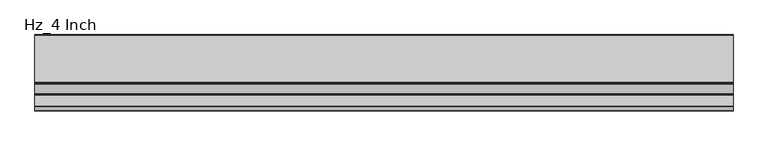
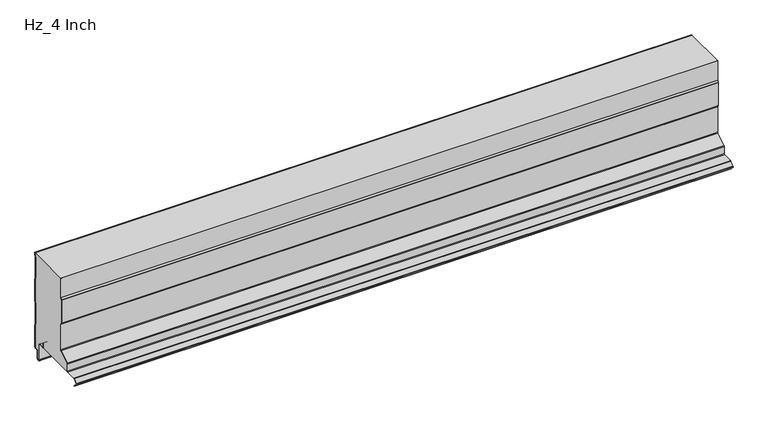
"""IFC4 building model written with IfcOpenShell, lengths in millimetres: plate geometry, KIP_R19_CP_KingSeam_Hz_Roof Panel : Hz_4 Inch."""

from ifc_helpers import new_model, si_unit, point, frame, frame_2d, origin, place, context, project, spatial, polyline, circle_curve, trimmed, segment, composite_curve, outline, extrude, source, transform, mapped, element, save


def hz_4_inch_9b4ac41a(model_context):
    return source(origin(), model_context, "Body", "SweptSolid", [
        extrude(outline(composite_curve([segment(polyline([(-32.0, 1.9842002), (-32.0, 9.4842002), (-31.2, 9.4842002), (-31.2, 1.9842002)]), True, "CONTINUOUS"), segment(trimmed(circle_curve(frame_2d((-29.7, 1.9842002)), 1.5), [point((-31.2, 1.9842002))], [point((-29.7, 0.4842002))], True, "CARTESIAN"), True, "CONTINUOUS"), segment(polyline([(-29.7, 0.4842002), (-18.5, 0.4842002)]), True, "CONTINUOUS"), segment(trimmed(circle_curve(frame_2d((-18.5, -1.5157998)), 2.0), [point((-18.5, 0.4842002))], [point((-16.5, -1.5157998))], False, "CARTESIAN"), True, "CONTINUOUS"), segment(polyline([(-16.5, -1.5157998), (-16.5, -37.0157998)]), True, "CONTINUOUS"), segment(trimmed(circle_curve(frame_2d((-14.0, -37.0157998)), 2.5), [point((-16.5, -37.0157998))], [point((-14.0, -39.5157998))], True, "CARTESIAN"), True, "CONTINUOUS"), segment(polyline([(-14.0, -39.5157998), (-12.0, -39.5157998)]), True, "CONTINUOUS"), segment(trimmed(circle_curve(frame_2d((-12.0, -37.0157998)), 2.5), [point((-12.0, -39.5157998))], [point((-9.5, -37.0157998))], True, "CARTESIAN"), True, "CONTINUOUS"), segment(polyline([(-9.5, -37.0157998), (-9.5, -21.3)]), True, "CONTINUOUS"), segment(trimmed(circle_curve(frame_2d((-6.5, -21.3)), 3.0), [point((-9.5, -21.3))], [point((-6.5, -18.3))], False, "CARTESIAN"), True, "CONTINUOUS"), segment(polyline([(-6.5, -18.3), (-3.0, -18.3)]), True, "CONTINUOUS"), segment(trimmed(circle_curve(frame_2d((-2.8161925, -16.2437506)), 2.0644483), [point((-3.0, -18.3))], [point((-0.8, -15.8))], True, "CARTESIAN"), True, "CONTINUOUS"), segment(polyline([(-0.8, -15.8), (-0.8, 33.9573226)]), True, "CONTINUOUS"), segment(trimmed(circle_curve(frame_2d((-3.2, 33.9573226)), 2.4), [point((-0.8, 33.9573226))], [point((-0.9968123, 34.9091439))], True, "CARTESIAN"), True, "CONTINUOUS"), segment(polyline([(-0.9968123, 34.9091439), (-2.0293831, 37.2992431)]), True, "CONTINUOUS"), segment(trimmed(circle_curve(frame_2d((1.0, 38.6079974)), 3.3), [point((-2.0293831, 37.2992431))], [point((-2.3, 38.6079974))], False, "CARTESIAN"), True, "CONTINUOUS"), segment(polyline([(-2.3, 38.6079974), (-2.3, 86.9920026)]), True, "CONTINUOUS"), segment(trimmed(circle_curve(frame_2d((1.0, 86.9920026)), 3.3), [point((-2.3, 86.9920026))], [point((-2.0293831, 88.3007569))], False, "CARTESIAN"), True, "CONTINUOUS"), segment(polyline([(-2.0293831, 88.3007569), (-0.9968123, 90.6908561)]), True, "CONTINUOUS"), segment(trimmed(circle_curve(frame_2d((-3.2, 91.6426774)), 2.4), [point((-0.9968123, 90.6908561))], [point((-0.8, 91.6426774))], True, "CARTESIAN"), True, "CONTINUOUS"), segment(polyline([(-0.8, 91.6426774), (-0.8, 140.5573226)]), True, "CONTINUOUS"), segment(trimmed(circle_curve(frame_2d((-3.2, 140.5573226)), 2.4), [point((-0.8, 140.5573226))], [point((-0.9968123, 141.5091439))], True, "CARTESIAN"), True, "CONTINUOUS"), segment(polyline([(-0.9968123, 141.5091439), (-2.0293831, 143.8992431)]), True, "CONTINUOUS"), segment(trimmed(circle_curve(frame_2d((1.0, 145.2079974)), 3.3), [point((-2.0293831, 143.8992431))], [point((-2.3, 145.2079974))], False, "CARTESIAN"), True, "CONTINUOUS"), segment(polyline([(-2.3, 145.2079974), (-2.3, 193.5920026)]), True, "CONTINUOUS"), segment(trimmed(circle_curve(frame_2d((1.0, 193.5920026)), 3.3), [point((-2.3, 193.5920026))], [point((-2.0293831, 194.9007569))], False, "CARTESIAN"), True, "CONTINUOUS"), segment(polyline([(-2.0293831, 194.9007569), (-0.9968123, 197.2908561)]), True, "CONTINUOUS"), segment(trimmed(circle_curve(frame_2d((-3.2, 198.2426774)), 2.4), [point((-0.9968123, 197.2908561))], [point((-0.8, 198.2426774))], True, "CARTESIAN"), True, "CONTINUOUS"), segment(polyline([(-0.8, 198.2426774), (-0.8, 203.2), (0.0, 203.2), (0.0, 198.2426774)]), True, "CONTINUOUS"), segment(trimmed(circle_curve(frame_2d((-3.2, 198.2426774)), 3.2), [point((0.0, 198.2426774))], [point((-0.2624164, 196.9735823))], False, "CARTESIAN"), True, "CONTINUOUS"), segment(polyline([(-0.2624164, 196.9735823), (-1.2949872, 194.5834831)]), True, "CONTINUOUS"), segment(trimmed(circle_curve(frame_2d((1.0, 193.5920026)), 2.5), [point((-1.2949872, 194.5834831))], [point((-1.5, 193.5920026))], True, "CARTESIAN"), True, "CONTINUOUS"), segment(polyline([(-1.5, 193.5920026), (-1.5, 145.2079974)]), True, "CONTINUOUS"), segment(trimmed(circle_curve(frame_2d((1.0, 145.2079974)), 2.5), [point((-1.5, 145.2079974))], [point((-1.2949872, 144.2165169))], True, "CARTESIAN"), True, "CONTINUOUS"), segment(polyline([(-1.2949872, 144.2165169), (-0.2624164, 141.8264177)]), True, "CONTINUOUS"), segment(trimmed(circle_curve(frame_2d((-3.2, 140.5573226)), 3.2), [point((-0.2624164, 141.8264177))], [point((0.0, 140.5573226))], False, "CARTESIAN"), True, "CONTINUOUS"), segment(polyline([(0.0, 140.5573226), (0.0, 91.6426774)]), True, "CONTINUOUS"), segment(trimmed(circle_curve(frame_2d((-3.2, 91.6426774)), 3.2), [point((0.0, 91.6426774))], [point((-0.2624164, 90.3735823))], False, "CARTESIAN"), True, "CONTINUOUS"), segment(polyline([(-0.2624164, 90.3735823), (-1.2949872, 87.9834831)]), True, "CONTINUOUS"), segment(trimmed(circle_curve(frame_2d((1.0, 86.9920026)), 2.5), [point((-1.2949872, 87.9834831))], [point((-1.5, 86.9920026))], True, "CARTESIAN"), True, "CONTINUOUS"), segment(polyline([(-1.5, 86.9920026), (-1.5, 38.6079974)]), True, "CONTINUOUS"), segment(trimmed(circle_curve(frame_2d((1.0, 38.6079974)), 2.5), [point((-1.5, 38.6079974))], [point((-1.2949872, 37.6165169))], True, "CARTESIAN"), True, "CONTINUOUS"), segment(polyline([(-1.2949872, 37.6165169), (-0.2624164, 35.2264177)]), True, "CONTINUOUS"), segment(trimmed(circle_curve(frame_2d((-3.2, 33.9573226)), 3.2), [point((-0.2624164, 35.2264177))], [point((0.0, 33.9573226))], False, "CARTESIAN"), True, "CONTINUOUS"), segment(polyline([(0.0, 33.9573226), (0.0, -15.8)]), True, "CONTINUOUS"), segment(trimmed(circle_curve(frame_2d((-3.0, -15.8)), 3.0), [point((0.0, -15.8))], [point((-3.0, -18.8))], False, "CARTESIAN"), True, "CONTINUOUS"), segment(polyline([(-3.0, -18.8), (-6.5, -18.8)]), True, "CONTINUOUS"), segment(trimmed(circle_curve(frame_2d((-6.5, -21.3)), 2.5), [point((-6.5, -18.8))], [point((-9.0, -21.3))], True, "CARTESIAN"), True, "CONTINUOUS"), segment(polyline([(-9.0, -21.3), (-9.0, -37.0157998)]), True, "CONTINUOUS"), segment(trimmed(circle_curve(frame_2d((-12.0, -37.0157998)), 3.0), [point((-9.0, -37.0157998))], [point((-12.0, -40.0157998))], False, "CARTESIAN"), True, "CONTINUOUS"), segment(polyline([(-12.0, -40.0157998), (-14.0, -40.0157998)]), True, "CONTINUOUS"), segment(trimmed(circle_curve(frame_2d((-14.0, -37.0157998)), 3.0), [point((-14.0, -40.0157998))], [point((-17.0, -37.0157998))], False, "CARTESIAN"), True, "CONTINUOUS"), segment(polyline([(-17.0, -37.0157998), (-17.0, -1.5157998)]), True, "CONTINUOUS"), segment(trimmed(circle_curve(frame_2d((-18.5, -1.5157998)), 1.5), [point((-17.0, -1.5157998))], [point((-18.5, -0.0157998))], True, "CARTESIAN"), True, "CONTINUOUS"), segment(polyline([(-18.5, -0.0157998), (-30.0, -0.0157998)]), True, "CONTINUOUS"), segment(trimmed(circle_curve(frame_2d((-30.0, 1.9842002)), 2.0), [point((-30.0, -0.0157998))], [point((-32.0, 1.9842002))], False, "CARTESIAN"), True, "CONTINUOUS")], self_intersect=False)), frame((-723.9042608, 0.0, 0.0), z_axis=(1.0, 0.0, 0.0), x_axis=(0.0, 1.0, 0.0)), (0.0, 0.0, 1.0), 1447.8085217),
        extrude(outline(composite_curve([segment(polyline([(-101.8158084, 154.7942706), (-99.315881, 158.2539642), (-99.315881, 203.2), (-98.8158803, 203.2), (-98.8158803, 158.2539652), (-101.3158083, 154.7942705)]), True, "CONTINUOUS"), segment(trimmed(circle_curve(frame_2d((-100.0999997, 153.9157438)), 1.4999999), [point((-101.3158083, 154.7942705))], [point((-101.5999996, 153.9157438))], True, "CARTESIAN"), True, "CONTINUOUS"), segment(polyline([(-101.5999996, 153.9157438), (-101.5999996, 100.1657439)]), True, "CONTINUOUS"), segment(trimmed(circle_curve(frame_2d((-100.0999999, 100.1657439)), 1.4999998), [point((-101.5999996, 100.1657439))], [point((-101.3158084, 99.2872174))], True, "CARTESIAN"), True, "CONTINUOUS"), segment(polyline([(-101.3158084, 99.2872174), (-98.8158803, 95.8275223), (-98.8158803, 36.653595)]), True, "CONTINUOUS"), segment(trimmed(circle_curve(frame_2d((-101.3158801, 36.653595)), 2.4999998), [point((-98.8158803, 36.653595))], [point((-99.9365748, 34.5685253))], False, "CARTESIAN"), True, "CONTINUOUS"), segment(polyline([(-99.9365748, 34.5685253), (-122.919325, 19.3650868)]), True, "CONTINUOUS"), segment(trimmed(circle_curve(frame_2d((-121.8158806, 17.6970309)), 2.0), [point((-122.919325, 19.3650868))], [point((-123.8158806, 17.6970309))], True, "CARTESIAN"), True, "CONTINUOUS"), segment(polyline([(-123.8158806, 17.6970309), (-123.8158806, 2.1407443)]), True, "CONTINUOUS"), segment(trimmed(circle_curve(frame_2d((-125.9158807, 2.1407443)), 2.1000001), [point((-123.8158806, 2.1407443))], [point((-125.9158807, 0.0407443))], False, "CARTESIAN"), True, "CONTINUOUS"), segment(polyline([(-125.9158807, 0.0407443), (-148.8505141, 0.0407443)]), True, "CONTINUOUS"), segment(trimmed(circle_curve(frame_2d((-148.8505141, -1.4592557)), 1.5), [point((-148.8505141, 0.0407443))], [point((-149.9111742, -0.3985956))], True, "CARTESIAN"), True, "CONTINUOUS"), segment(polyline([(-149.9111742, -0.3985956), (-157.4309954, -7.9184168)]), True, "CONTINUOUS"), segment(trimmed(circle_curve(frame_2d((-156.4012712, -8.4443275)), 1.15625), [point((-157.4309954, -7.9184168))], [point((-157.2188634, -9.2619197))], True, "CARTESIAN"), True, "CONTINUOUS"), segment(polyline([(-157.2188634, -9.2619197), (-149.8649529, -16.6158302), (-150.4306383, -17.1815156), (-157.7845488, -9.8276051)]), True, "CONTINUOUS"), segment(trimmed(circle_curve(frame_2d((-156.653178, -8.6962342)), 1.6), [point((-157.7845488, -9.8276051))], [point((-157.7845488, -7.5648634))], False, "CARTESIAN"), True, "CONTINUOUS"), segment(polyline([(-157.7845488, -7.5648634), (-150.2647276, -0.0450422)]), True, "CONTINUOUS"), segment(trimmed(circle_curve(frame_2d((-148.8505141, -1.4592557)), 2.0), [point((-150.2647276, -0.0450422))], [point((-148.8505141, 0.5407443))], False, "CARTESIAN"), True, "CONTINUOUS"), segment(polyline([(-148.8505141, 0.5407443), (-125.9158807, 0.5407443)]), True, "CONTINUOUS"), segment(trimmed(circle_curve(frame_2d((-125.9158807, 2.1407444)), 1.6000001), [point((-125.9158807, 0.5407443))], [point((-124.3158806, 2.1407444))], True, "CARTESIAN"), True, "CONTINUOUS"), segment(polyline([(-124.3158806, 2.1407444), (-124.3158806, 17.6970309)]), True, "CONTINUOUS"), segment(trimmed(circle_curve(frame_2d((-121.8158806, 17.6970309)), 2.4999999), [point((-124.3158806, 17.6970309))], [point((-123.1951861, 19.7821007))], False, "CARTESIAN"), True, "CONTINUOUS"), segment(polyline([(-123.1951861, 19.7821007), (-100.212436, 34.9855395)]), True, "CONTINUOUS"), segment(trimmed(circle_curve(frame_2d((-101.3158801, 36.653595)), 1.9999995), [point((-100.212436, 34.9855395))], [point((-99.3158806, 36.653595))], True, "CARTESIAN"), True, "CONTINUOUS"), segment(polyline([(-99.3158806, 36.653595), (-99.3158806, 95.8275223), (-101.8158088, 99.2872172)]), True, "CONTINUOUS"), segment(trimmed(circle_curve(frame_2d((-100.6000001, 100.1657439)), 1.5), [point((-101.8158088, 99.2872172))], [point((-102.0999997, 100.1667153))], False, "CARTESIAN"), True, "CONTINUOUS"), segment(polyline([(-102.0999997, 100.1667153), (-102.0999997, 153.9157439)]), True, "CONTINUOUS"), segment(trimmed(circle_curve(frame_2d((-100.5999998, 153.9157439)), 1.5), [point((-102.0999997, 153.9157439))], [point((-101.8158084, 154.7942706))], False, "CARTESIAN"), True, "CONTINUOUS")], self_intersect=False)), frame((-723.9042608, 0.0, 0.0), z_axis=(1.0, 0.0, 0.0), x_axis=(0.0, 1.0, 0.0)), (0.0, 0.0, 1.0), 1447.8085217),
        extrude(outline(composite_curve([segment(polyline([(-98.8158807, 158.2132216), (-98.8158807, 203.2), (-0.7999994, 203.2), (-0.7999994, 198.2584774)]), True, "CONTINUOUS"), segment(trimmed(circle_curve(frame_2d((-3.1999994, 198.2584774)), 2.4), [point((-0.7999994, 198.2584774))], [point((-0.9968117, 197.306656))], False, "CARTESIAN"), True, "CONTINUOUS"), segment(polyline([(-0.9968117, 197.306656), (-2.0293826, 194.9165568)]), True, "CONTINUOUS"), segment(trimmed(circle_curve(frame_2d((1.0000006, 193.6078025)), 3.3), [point((-2.0293826, 194.9165568))], [point((-2.2999994, 193.6078025))], True, "CARTESIAN"), True, "CONTINUOUS"), segment(polyline([(-2.2999994, 193.6078025), (-2.2999994, 145.2237974)]), True, "CONTINUOUS"), segment(trimmed(circle_curve(frame_2d((1.0000006, 145.2237974)), 3.3), [point((-2.2999994, 145.2237974))], [point((-2.0293826, 143.915043))], True, "CARTESIAN"), True, "CONTINUOUS"), segment(polyline([(-2.0293826, 143.915043), (-0.9968117, 141.5249438)]), True, "CONTINUOUS"), segment(trimmed(circle_curve(frame_2d((-3.1999994, 140.5731225)), 2.4), [point((-0.9968117, 141.5249438))], [point((-0.7999994, 140.5731225))], False, "CARTESIAN"), True, "CONTINUOUS"), segment(polyline([(-0.7999994, 140.5731225), (-0.7999994, 91.6584774)]), True, "CONTINUOUS"), segment(trimmed(circle_curve(frame_2d((-3.1999994, 91.6584774)), 2.4), [point((-0.7999994, 91.6584774))], [point((-0.9968117, 90.706656))], False, "CARTESIAN"), True, "CONTINUOUS"), segment(polyline([(-0.9968117, 90.706656), (-2.0293826, 88.3165568)]), True, "CONTINUOUS"), segment(trimmed(circle_curve(frame_2d((1.0000006, 87.0078025)), 3.3), [point((-2.0293826, 88.3165568))], [point((-2.2999994, 87.0078025))], True, "CARTESIAN"), True, "CONTINUOUS"), segment(polyline([(-2.2999994, 87.0078025), (-2.2999994, 38.6237974)]), True, "CONTINUOUS"), segment(trimmed(circle_curve(frame_2d((1.0000006, 38.6237974)), 3.3), [point((-2.2999994, 38.6237974))], [point((-2.0293826, 37.315043))], True, "CARTESIAN"), True, "CONTINUOUS"), segment(polyline([(-2.0293826, 37.315043), (-0.9968117, 34.9249438)]), True, "CONTINUOUS"), segment(trimmed(circle_curve(frame_2d((-3.1999994, 33.9731225)), 2.4), [point((-0.9968117, 34.9249438))], [point((-0.7999994, 33.9731225))], False, "CARTESIAN"), True, "CONTINUOUS"), segment(polyline([(-0.7999994, 33.9731225), (-0.7999994, -15.7842001)]), True, "CONTINUOUS"), segment(trimmed(circle_curve(frame_2d((-2.8161919, -16.2279507)), 2.0644483), [point((-0.7999994, -15.7842001))], [point((-2.9999994, -18.2842001))], False, "CARTESIAN"), True, "CONTINUOUS"), segment(polyline([(-2.9999994, -18.2842001), (-6.4999994, -18.2842001)]), True, "CONTINUOUS"), segment(trimmed(circle_curve(frame_2d((-6.4999994, -21.2842001)), 3.0), [point((-6.4999994, -18.2842001))], [point((-9.4999994, -21.2842001))], True, "CARTESIAN"), True, "CONTINUOUS"), segment(polyline([(-9.4999994, -21.2842001), (-9.4999994, -36.9999998)]), True, "CONTINUOUS"), segment(trimmed(circle_curve(frame_2d((-11.9999994, -36.9999998)), 2.5), [point((-9.4999994, -36.9999998))], [point((-11.9999994, -39.4999998))], False, "CARTESIAN"), True, "CONTINUOUS"), segment(polyline([(-11.9999994, -39.4999998), (-13.9999994, -39.4999998)]), True, "CONTINUOUS"), segment(trimmed(circle_curve(frame_2d((-13.9999994, -36.9999998)), 2.5), [point((-13.9999994, -39.4999998))], [point((-16.4999994, -36.9999998))], False, "CARTESIAN"), True, "CONTINUOUS"), segment(polyline([(-16.4999994, -36.9999998), (-16.4999994, -1.4999998)]), True, "CONTINUOUS"), segment(trimmed(circle_curve(frame_2d((-18.4999994, -1.4999998)), 2.0), [point((-16.4999994, -1.4999998))], [point((-18.4999994, 0.5000002))], True, "CARTESIAN"), True, "CONTINUOUS"), segment(polyline([(-18.4999994, 0.5000002), (-29.6999994, 0.5000002)]), True, "CONTINUOUS"), segment(trimmed(circle_curve(frame_2d((-29.6999994, 2.0000002)), 1.5), [point((-29.6999994, 0.5000002))], [point((-31.1999994, 2.0000002))], False, "CARTESIAN"), True, "CONTINUOUS"), segment(polyline([(-31.1999994, 2.0000002), (-31.1999994, 9.5000002), (-31.9999994, 9.5000002), (-31.9999994, 2.0000002)]), True, "CONTINUOUS"), segment(trimmed(circle_curve(frame_2d((-29.9999994, 2.0000002)), 2.0), [point((-31.9999994, 2.0000002))], [point((-29.9999994, 2e-07))], True, "CARTESIAN"), True, "CONTINUOUS"), segment(polyline([(-29.9999994, 2e-07), (-125.9158809, 2e-07)]), True, "CONTINUOUS"), segment(trimmed(circle_curve(frame_2d((-125.9158809, 2.1)), 2.0999999), [point((-125.9158809, 2e-07))], [point((-123.8158811, 2.1))], True, "CARTESIAN"), True, "CONTINUOUS"), segment(polyline([(-123.8158811, 2.1), (-123.8158811, 17.6562866)]), True, "CONTINUOUS"), segment(trimmed(circle_curve(frame_2d((-121.8158811, 17.6562866)), 2.0), [point((-123.8158811, 17.6562866))], [point((-122.9193254, 19.3243425))], False, "CARTESIAN"), True, "CONTINUOUS"), segment(polyline([(-122.9193254, 19.3243425), (-99.9365754, 34.5277808)]), True, "CONTINUOUS"), segment(trimmed(circle_curve(frame_2d((-101.3158809, 36.6128508)), 2.5000002), [point((-99.9365754, 34.5277808))], [point((-98.8158807, 36.6128508))], True, "CARTESIAN"), True, "CONTINUOUS"), segment(polyline([(-98.8158807, 36.6128508), (-98.8158807, 95.7867785), (-101.315809, 99.2464732)]), True, "CONTINUOUS"), segment(trimmed(circle_curve(frame_2d((-100.1000002, 100.1250001)), 1.5000002), [point((-101.315809, 99.2464732))], [point((-101.6000003, 100.1250001))], False, "CARTESIAN"), True, "CONTINUOUS"), segment(polyline([(-101.6000003, 100.1250001), (-101.6000003, 153.875)]), True, "CONTINUOUS"), segment(trimmed(circle_curve(frame_2d((-100.1000001, 153.875)), 1.5000002), [point((-101.6000003, 153.875))], [point((-101.315809, 154.753527))], False, "CARTESIAN"), True, "CONTINUOUS"), segment(polyline([(-101.315809, 154.753527), (-98.8158807, 158.2132216)]), True, "CONTINUOUS")], self_intersect=False)), frame((-723.9042608, 0.0, 0.0), z_axis=(1.0, 0.0, 0.0), x_axis=(0.0, 1.0, 0.0)), (0.0, 0.0, 1.0), 1447.8085217),
    ])


if __name__ == "__main__":
    model = new_model("IFC4")
    model_context = context("Model", 3, world=origin())
    ifc_project = project(units=[si_unit("LENGTHUNIT", "METRE", prefix="MILLI")], contexts=[model_context])
    site = spatial("IfcSite", under=ifc_project)
    building = spatial("IfcBuilding", under=site)
    placement = place(None, origin())
    hz_4_inch_shape = hz_4_inch_9b4ac41a(model_context)
    element("IfcPlate", 1, ObjectType="KIP_R19_CP_KingSeam_Hz_Roof Panel : Hz_4 Inch", at=placement, inside=building, context=model_context, shape_type="MappedRepresentation", body=[
        mapped(hz_4_inch_shape, transform((0.0, 0.0, 0.0), x_axis=(1.0, 0.0, 0.0), y_axis=(0.0, 1.0, 0.0), z_axis=(0.0, 0.0, 1.0))),
    ])
    save(model, "model.ifc")
